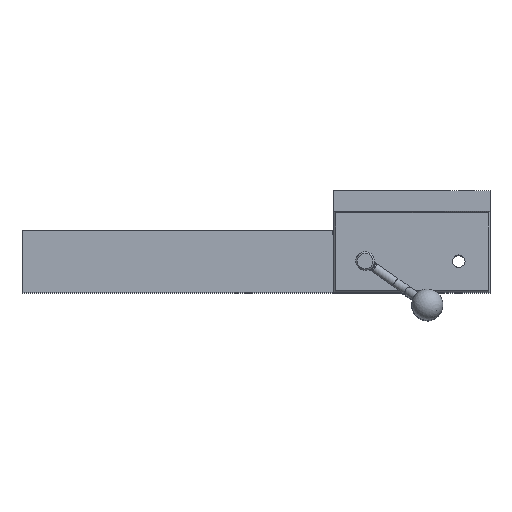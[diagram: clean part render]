
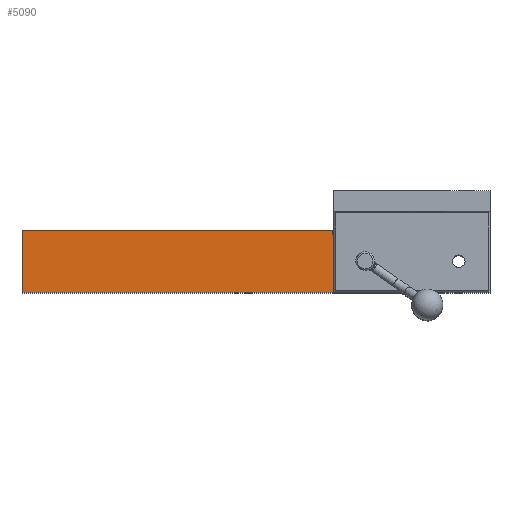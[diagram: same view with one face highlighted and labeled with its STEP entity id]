
A CAD part, top view. The second image highlights one B-rep face of the part: STEP entity #5090.
In plain terms, the highlighted planar face has unit normal (0, 0, 1).
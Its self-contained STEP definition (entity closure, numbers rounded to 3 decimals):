
#341=LINE('',#14755,#938);
#345=LINE('',#14763,#942);
#347=LINE('',#14767,#944);
#348=LINE('',#14772,#945);
#349=LINE('',#14779,#946);
#350=LINE('',#14781,#947);
#351=LINE('',#14783,#948);
#352=LINE('',#14785,#949);
#353=LINE('',#14787,#950);
#354=LINE('',#14788,#951);
#938=VECTOR('',#11509,1.);
#942=VECTOR('',#11515,1.);
#944=VECTOR('',#11519,1.);
#945=VECTOR('',#11522,1.);
#946=VECTOR('',#11529,1.);
#947=VECTOR('',#11530,1.);
#948=VECTOR('',#11531,1.);
#949=VECTOR('',#11532,1.);
#950=VECTOR('',#11533,1.);
#951=VECTOR('',#11534,1.);
#4480=FACE_BOUND('',#6214,.T.);
#4481=FACE_BOUND('',#6215,.T.);
#4482=FACE_BOUND('',#6216,.T.);
#5090=ADVANCED_FACE('',(#4480,#4481,#4482),#5457,.F.);
#5457=PLANE('',#10415);
#6214=EDGE_LOOP('',(#7400,#7401,#7402,#7403));
#6215=EDGE_LOOP('',(#7404));
#6216=EDGE_LOOP('',(#7405,#7406,#7407,#7408,#7409,#7410,#7411,#7412,#7413));
#7400=ORIENTED_EDGE('',*,*,#9476,.F.);
#7401=ORIENTED_EDGE('',*,*,#9477,.F.);
#7402=ORIENTED_EDGE('',*,*,#9478,.F.);
#7403=ORIENTED_EDGE('',*,*,#9479,.F.);
#7404=ORIENTED_EDGE('',*,*,#9480,.T.);
#7405=ORIENTED_EDGE('',*,*,#9474,.F.);
#7406=ORIENTED_EDGE('',*,*,#9481,.T.);
#7407=ORIENTED_EDGE('',*,*,#9482,.F.);
#7408=ORIENTED_EDGE('',*,*,#9483,.F.);
#7409=ORIENTED_EDGE('',*,*,#9484,.F.);
#7410=ORIENTED_EDGE('',*,*,#9485,.F.);
#7411=ORIENTED_EDGE('',*,*,#9486,.F.);
#7412=ORIENTED_EDGE('',*,*,#9470,.F.);
#7413=ORIENTED_EDGE('',*,*,#9487,.F.);
#8704=VERTEX_POINT('',#14756);
#8705=VERTEX_POINT('',#14757);
#8706=VERTEX_POINT('',#14762);
#8707=VERTEX_POINT('',#14764);
#8708=VERTEX_POINT('',#14768);
#8709=VERTEX_POINT('',#14769);
#8710=VERTEX_POINT('',#14771);
#8711=VERTEX_POINT('',#14773);
#8712=VERTEX_POINT('',#14776);
#8713=VERTEX_POINT('',#14778);
#8714=VERTEX_POINT('',#14780);
#8715=VERTEX_POINT('',#14782);
#8716=VERTEX_POINT('',#14784);
#8717=VERTEX_POINT('',#14786);
#9470=EDGE_CURVE('',#8704,#8705,#341,.T.);
#9474=EDGE_CURVE('',#8706,#8707,#345,.T.);
#9476=EDGE_CURVE('',#8708,#8709,#347,.T.);
#9477=EDGE_CURVE('',#8710,#8708,#10053,.T.);
#9478=EDGE_CURVE('',#8711,#8710,#348,.T.);
#9479=EDGE_CURVE('',#8709,#8711,#10054,.T.);
#9480=EDGE_CURVE('',#8712,#8712,#10055,.T.);
#9481=EDGE_CURVE('',#8706,#8713,#10056,.T.);
#9482=EDGE_CURVE('',#8714,#8713,#349,.T.);
#9483=EDGE_CURVE('',#8715,#8714,#350,.T.);
#9484=EDGE_CURVE('',#8716,#8715,#351,.T.);
#9485=EDGE_CURVE('',#8717,#8716,#352,.T.);
#9486=EDGE_CURVE('',#8705,#8717,#353,.T.);
#9487=EDGE_CURVE('',#8707,#8704,#354,.T.);
#10053=CIRCLE('',#10411,6.);
#10054=CIRCLE('',#10412,6.);
#10055=CIRCLE('',#10413,6.);
#10056=CIRCLE('',#10414,25.);
#10411=AXIS2_PLACEMENT_3D('',#14770,#11520,#11521);
#10412=AXIS2_PLACEMENT_3D('',#14774,#11523,#11524);
#10413=AXIS2_PLACEMENT_3D('',#14775,#11525,#11526);
#10414=AXIS2_PLACEMENT_3D('',#14777,#11527,#11528);
#10415=AXIS2_PLACEMENT_3D('',#14789,#11535,#11536);
#11509=DIRECTION('',(0.,1.,0.));
#11515=DIRECTION('',(0.,-1.,0.));
#11519=DIRECTION('',(1.,0.,0.));
#11520=DIRECTION('',(0.,0.,1.));
#11521=DIRECTION('',(-1.,0.,0.));
#11522=DIRECTION('',(-1.,0.,0.));
#11523=DIRECTION('',(0.,0.,1.));
#11524=DIRECTION('',(-1.,0.,0.));
#11525=DIRECTION('',(0.,0.,-1.));
#11526=DIRECTION('',(-1.,0.,0.));
#11527=DIRECTION('',(0.,0.,1.));
#11528=DIRECTION('',(0.326,0.946,0.));
#11529=DIRECTION('',(1.,0.,0.));
#11530=DIRECTION('',(0.,1.,0.));
#11531=DIRECTION('',(1.,0.,0.));
#11532=DIRECTION('',(0.,-1.,0.));
#11533=DIRECTION('',(1.,0.,0.));
#11534=DIRECTION('',(-1.,0.,0.));
#11535=DIRECTION('',(0.,0.,-1.));
#11536=DIRECTION('',(-1.,0.,0.));
#14755=CARTESIAN_POINT('',(80.034,-64.942,365.));
#14756=CARTESIAN_POINT('',(80.034,-64.942,365.));
#14757=CARTESIAN_POINT('',(80.034,-24.942,365.));
#14762=CARTESIAN_POINT('',(380.034,-49.942,365.));
#14763=CARTESIAN_POINT('',(380.034,-24.942,365.));
#14764=CARTESIAN_POINT('',(380.034,-64.942,365.));
#14767=CARTESIAN_POINT('',(295.534,-51.742,365.));
#14768=CARTESIAN_POINT('',(295.534,-51.742,365.));
#14769=CARTESIAN_POINT('',(304.534,-51.742,365.));
#14770=CARTESIAN_POINT('',(295.534,-45.742,365.));
#14771=CARTESIAN_POINT('',(295.534,-39.742,365.));
#14772=CARTESIAN_POINT('',(304.534,-39.742,365.));
#14773=CARTESIAN_POINT('',(304.534,-39.742,365.));
#14774=CARTESIAN_POINT('',(304.534,-45.742,365.));
#14775=CARTESIAN_POINT('',(360.034,-44.942,365.));
#14776=CARTESIAN_POINT('',(354.034,-44.942,365.));
#14777=CARTESIAN_POINT('',(355.034,-49.942,365.));
#14778=CARTESIAN_POINT('',(355.034,-24.942,365.));
#14779=CARTESIAN_POINT('',(80.034,-24.942,365.));
#14780=CARTESIAN_POINT('',(297.034,-24.942,365.));
#14781=CARTESIAN_POINT('',(297.034,-64.942,365.));
#14782=CARTESIAN_POINT('',(297.034,-27.942,365.));
#14783=CARTESIAN_POINT('',(380.034,-27.942,365.));
#14784=CARTESIAN_POINT('',(279.034,-27.942,365.));
#14785=CARTESIAN_POINT('',(279.034,-64.942,365.));
#14786=CARTESIAN_POINT('',(279.034,-24.942,365.));
#14787=CARTESIAN_POINT('',(80.034,-24.942,365.));
#14788=CARTESIAN_POINT('',(380.034,-64.942,365.));
#14789=CARTESIAN_POINT('',(380.034,-64.942,365.));
